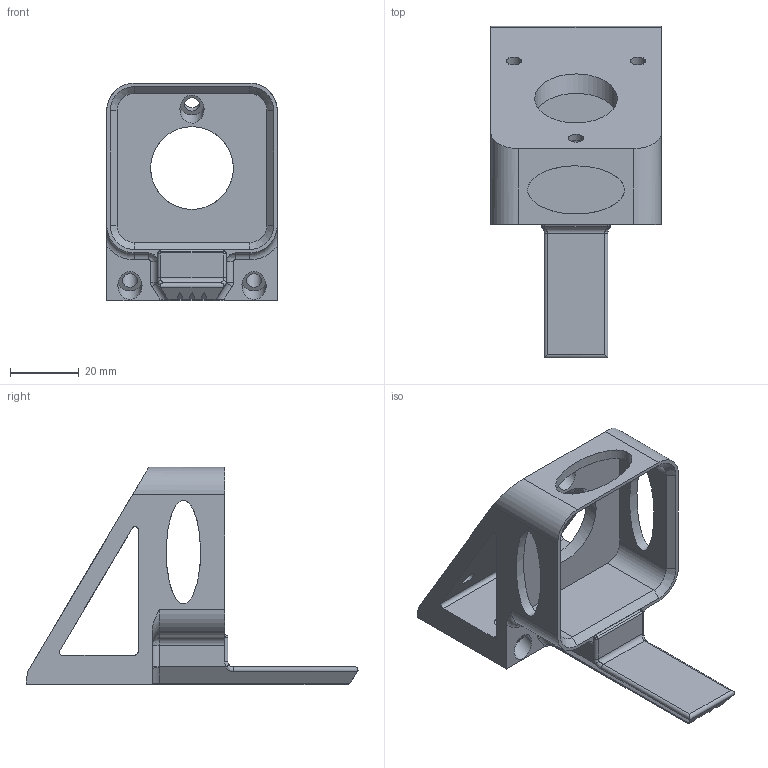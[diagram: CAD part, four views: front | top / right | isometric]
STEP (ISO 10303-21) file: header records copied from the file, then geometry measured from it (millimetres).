
FILE_DESCRIPTION(/* description */ (''),/* implementation_level */ '2;1');
FILE_NAME(/* name */ 'matrix.step',/* time_stamp */ '2026-05-24T18:37:06-04:00',/* author */ (''),/* organization */ (''),/* preprocessor_version */ 'ST-DEVELOPER v20.1',/* originating_system */ 'Autodesk Translation Framework v15.8.0.0',/* authorisation */ '');
FILE_SCHEMA (('AUTOMOTIVE_DESIGN { 1 0 10303 214 3 1 1 }'));
Length unit declared in the file: millimetre
Products named in the file (1): (Non enregistré)
Bounding box: 49.5 x 96.33 x 63.12 mm (x, y, z)
Volume: 49192.1 mm3; surface area: 24207.6 mm2
Topology: 1 solids, 1 shells, 854 faces, 2148 edges, 1307 vertices
Faces by surface type: bspline 441, plane 366, cylinder 37, torus 6, cone 4
Full cylindrical faces by diameter (mm): 4.5 x5, 7 x3, 24 x1
Entity records: 30805 total; most frequent: CARTESIAN_POINT 13576, ORIENTED_EDGE 4288, DIRECTION 2393, EDGE_CURVE 2144, LINE 1359, VECTOR 1359, VERTEX_POINT 1307, EDGE_LOOP 891
